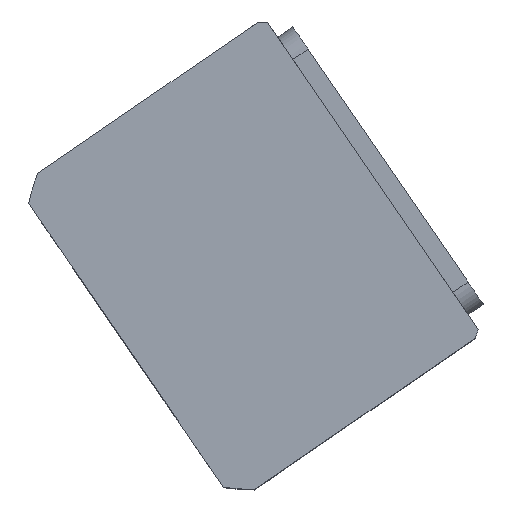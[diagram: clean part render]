
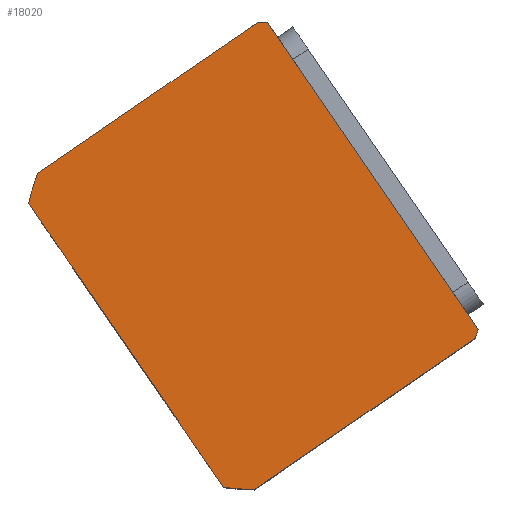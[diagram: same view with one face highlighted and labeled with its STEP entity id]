
A CAD part, top view. The second image highlights one B-rep face of the part: STEP entity #18020.
In plain terms, the highlighted planar face has unit normal (0, 0, 1) as drawn and (0, 0, -1) by its records, which use the part's own axes.
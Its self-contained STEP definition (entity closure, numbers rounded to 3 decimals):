
#55 = CARTESIAN_POINT ( 'NONE',  ( 0., 2.51, 0. ) ) ;
#193 = CIRCLE ( 'NONE', #16496, 69.5 ) ;
#963 = LINE ( 'NONE', #13855, #1392 ) ;
#1247 = VERTEX_POINT ( 'NONE', #7906 ) ;
#1392 = VECTOR ( 'NONE', #5395, 1000. ) ;
#1473 = DIRECTION ( 'NONE',  ( 1., 0., 0. ) ) ;
#1665 = CARTESIAN_POINT ( 'NONE',  ( -51.189, -44.5, 0. ) ) ;
#2073 = DIRECTION ( 'NONE',  ( 1., 0., 0. ) ) ;
#2191 = CARTESIAN_POINT ( 'NONE',  ( 0., 2.51, 0. ) ) ;
#2342 = CARTESIAN_POINT ( 'NONE',  ( 57., 42.275, 0. ) ) ;
#3470 = ORIENTED_EDGE ( 'NONE', *, *, #18104, .F. ) ;
#3607 = DIRECTION ( 'NONE',  ( 1., 0., 0. ) ) ;
#3839 = CARTESIAN_POINT ( 'NONE',  ( 0., 2.51, 0. ) ) ;
#4037 = LINE ( 'NONE', #14116, #14885 ) ;
#4110 = CARTESIAN_POINT ( 'NONE',  ( 0., 2.51, 0. ) ) ;
#4213 = EDGE_CURVE ( 'NONE', #13158, #13059, #10285, .T. ) ;
#4447 = CARTESIAN_POINT ( 'NONE',  ( -57., 44.5, 0. ) ) ;
#4473 = CIRCLE ( 'NONE', #12236, 69.5 ) ;
#4711 = VERTEX_POINT ( 'NONE', #1665 ) ;
#4805 = FACE_OUTER_BOUND ( 'NONE', #14378, .T. ) ;
#5244 = DIRECTION ( 'NONE',  ( 1., 0., 0. ) ) ;
#5302 = DIRECTION ( 'NONE',  ( 0., 1., 0. ) ) ;
#5395 = DIRECTION ( 'NONE',  ( 1., 0., 0. ) ) ;
#5516 = DIRECTION ( 'NONE',  ( 1., 0., 0. ) ) ;
#6209 = VERTEX_POINT ( 'NONE', #8139 ) ;
#6814 = VERTEX_POINT ( 'NONE', #14103 ) ;
#6841 = VERTEX_POINT ( 'NONE', #15283 ) ;
#6885 = LINE ( 'NONE', #17994, #13961 ) ;
#7163 = ORIENTED_EDGE ( 'NONE', *, *, #7934, .F. ) ;
#7245 = LINE ( 'NONE', #4447, #10150 ) ;
#7591 = EDGE_CURVE ( 'NONE', #6209, #13158, #6885, .T. ) ;
#7906 = CARTESIAN_POINT ( 'NONE',  ( -57., -37.255, 0. ) ) ;
#7934 = EDGE_CURVE ( 'NONE', #4711, #6814, #963, .T. ) ;
#7980 = VERTEX_POINT ( 'NONE', #16706 ) ;
#8037 = EDGE_CURVE ( 'NONE', #6814, #6209, #14643, .T. ) ;
#8139 = CARTESIAN_POINT ( 'NONE',  ( 57., -37.255, 0. ) ) ;
#8804 = CARTESIAN_POINT ( 'NONE',  ( 0., 0., 0. ) ) ;
#8818 = AXIS2_PLACEMENT_3D ( 'NONE', #4110, #13984, #5516 ) ;
#8898 = EDGE_CURVE ( 'NONE', #6841, #7980, #4473, .T. ) ;
#9413 = ORIENTED_EDGE ( 'NONE', *, *, #8898, .F. ) ;
#9921 = DIRECTION ( 'NONE',  ( 0., 0., 1. ) ) ;
#10150 = VECTOR ( 'NONE', #17237, 1000. ) ;
#10214 = ORIENTED_EDGE ( 'NONE', *, *, #7591, .F. ) ;
#10285 = CIRCLE ( 'NONE', #11296, 69.5 ) ;
#10545 = DIRECTION ( 'NONE',  ( 0., 0., 1. ) ) ;
#11296 = AXIS2_PLACEMENT_3D ( 'NONE', #55, #9921, #1473 ) ;
#11637 = EDGE_CURVE ( 'NONE', #7980, #1247, #4037, .T. ) ;
#11892 = PLANE ( 'NONE',  #13641 ) ;
#12061 = DIRECTION ( 'NONE',  ( 0., 0., 1. ) ) ;
#12236 = AXIS2_PLACEMENT_3D ( 'NONE', #3839, #13696, #5244 ) ;
#12697 = DIRECTION ( 'NONE',  ( 0., -1., 0. ) ) ;
#13059 = VERTEX_POINT ( 'NONE', #16305 ) ;
#13158 = VERTEX_POINT ( 'NONE', #2342 ) ;
#13641 = AXIS2_PLACEMENT_3D ( 'NONE', #8804, #10545, #2073 ) ;
#13696 = DIRECTION ( 'NONE',  ( 0., 0., 1. ) ) ;
#13855 = CARTESIAN_POINT ( 'NONE',  ( -57., -44.5, 0. ) ) ;
#13961 = VECTOR ( 'NONE', #5302, 1000. ) ;
#13984 = DIRECTION ( 'NONE',  ( 0., 0., 1. ) ) ;
#14103 = CARTESIAN_POINT ( 'NONE',  ( 51.189, -44.5, 0. ) ) ;
#14116 = CARTESIAN_POINT ( 'NONE',  ( -57., 44.5, 0. ) ) ;
#14378 = EDGE_LOOP ( 'NONE', ( #17065, #10214, #17475, #7163, #3470, #15767, #9413, #16379 ) ) ;
#14643 = CIRCLE ( 'NONE', #8818, 69.5 ) ;
#14885 = VECTOR ( 'NONE', #12697, 1000. ) ;
#15283 = CARTESIAN_POINT ( 'NONE',  ( -55.382, 44.5, 0. ) ) ;
#15767 = ORIENTED_EDGE ( 'NONE', *, *, #11637, .F. ) ;
#16305 = CARTESIAN_POINT ( 'NONE',  ( 55.382, 44.5, 0. ) ) ;
#16379 = ORIENTED_EDGE ( 'NONE', *, *, #16548, .F. ) ;
#16496 = AXIS2_PLACEMENT_3D ( 'NONE', #2191, #12061, #3607 ) ;
#16548 = EDGE_CURVE ( 'NONE', #13059, #6841, #7245, .T. ) ;
#16706 = CARTESIAN_POINT ( 'NONE',  ( -57., 42.275, 0. ) ) ;
#17065 = ORIENTED_EDGE ( 'NONE', *, *, #4213, .F. ) ;
#17237 = DIRECTION ( 'NONE',  ( -1., 0., 0. ) ) ;
#17475 = ORIENTED_EDGE ( 'NONE', *, *, #8037, .F. ) ;
#17994 = CARTESIAN_POINT ( 'NONE',  ( 57., 44.5, 0. ) ) ;
#18020 = ADVANCED_FACE ( 'NONE', ( #4805 ), #11892, .F. ) ;
#18104 = EDGE_CURVE ( 'NONE', #1247, #4711, #193, .T. ) ;
